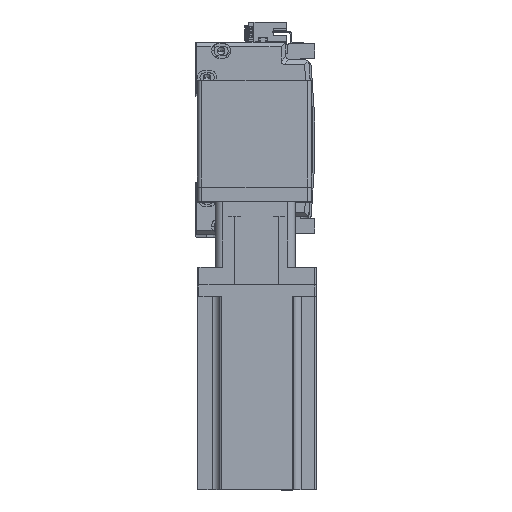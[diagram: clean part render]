
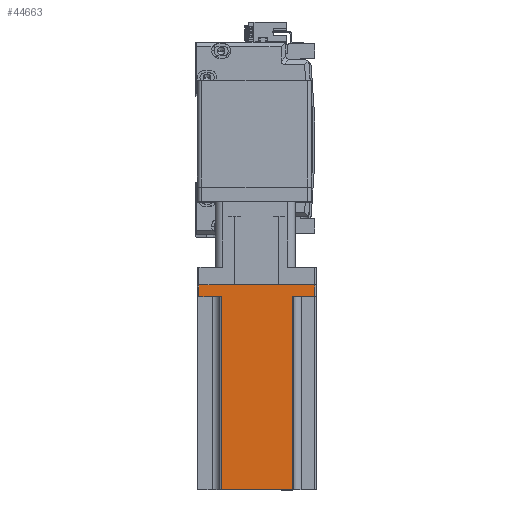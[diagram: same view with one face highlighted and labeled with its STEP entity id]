
A CAD part, top view. The second image highlights one B-rep face of the part: STEP entity #44663.
In plain terms, the highlighted planar face has unit normal (0, 0, 1) as drawn and (0, 1, 0) by its records, which use the part's own axes.
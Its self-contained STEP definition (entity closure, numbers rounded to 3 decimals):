
#2031 = EDGE_LOOP ( 'NONE', ( #16485, #6831, #46686, #34866, #21909, #4313, #35235, #10356 ) ) ;
#2285 = EDGE_CURVE ( 'NONE', #29230, #35787, #46152, .T. ) ;
#2308 = LINE ( 'NONE', #15813, #22176 ) ;
#2727 = CARTESIAN_POINT ( 'NONE',  ( 39., 40., 8. ) ) ;
#3024 = CARTESIAN_POINT ( 'NONE',  ( 24., 40., 138.3 ) ) ;
#3630 = EDGE_CURVE ( 'NONE', #30728, #42348, #47096, .T. ) ;
#3979 = CARTESIAN_POINT ( 'NONE',  ( -39., 40., 8. ) ) ;
#4151 = CARTESIAN_POINT ( 'NONE',  ( -39., 40., 0. ) ) ;
#4313 = ORIENTED_EDGE ( 'NONE', *, *, #3630, .T. ) ;
#4453 = VECTOR ( 'NONE', #12145, 1000. ) ;
#4673 = VECTOR ( 'NONE', #25967, 1000. ) ;
#6281 = CARTESIAN_POINT ( 'NONE',  ( 40., 40., 138.3 ) ) ;
#6831 = ORIENTED_EDGE ( 'NONE', *, *, #30359, .T. ) ;
#7558 = DIRECTION ( 'NONE',  ( 0., 0., -1. ) ) ;
#7945 = DIRECTION ( 'NONE',  ( 0., 0., -1. ) ) ;
#8362 = VECTOR ( 'NONE', #7945, 1000. ) ;
#9353 = CARTESIAN_POINT ( 'NONE',  ( 40., 40., 138.3 ) ) ;
#9811 = LINE ( 'NONE', #11280, #10939 ) ;
#10061 = DIRECTION ( 'NONE',  ( 1., 0., 0. ) ) ;
#10277 = CARTESIAN_POINT ( 'NONE',  ( -24., 40., 138.3 ) ) ;
#10356 = ORIENTED_EDGE ( 'NONE', *, *, #22104, .T. ) ;
#10939 = VECTOR ( 'NONE', #7558, 1000. ) ;
#11280 = CARTESIAN_POINT ( 'NONE',  ( 24., 40., 138.3 ) ) ;
#12145 = DIRECTION ( 'NONE',  ( -1., 0., 0. ) ) ;
#13849 = VERTEX_POINT ( 'NONE', #4151 ) ;
#14083 = LINE ( 'NONE', #33025, #42885 ) ;
#15813 = CARTESIAN_POINT ( 'NONE',  ( -24., 40., 138.3 ) ) ;
#16485 = ORIENTED_EDGE ( 'NONE', *, *, #46427, .T. ) ;
#18431 = CARTESIAN_POINT ( 'NONE',  ( 25., 40., 8. ) ) ;
#18871 = CARTESIAN_POINT ( 'NONE',  ( -24., 40., 8. ) ) ;
#19332 = CARTESIAN_POINT ( 'NONE',  ( 24., 40., 8. ) ) ;
#21162 = VECTOR ( 'NONE', #34531, 1000. ) ;
#21909 = ORIENTED_EDGE ( 'NONE', *, *, #37251, .F. ) ;
#22011 = LINE ( 'NONE', #42133, #4453 ) ;
#22104 = EDGE_CURVE ( 'NONE', #13849, #25700, #14083, .T. ) ;
#22176 = VECTOR ( 'NONE', #45529, 1000. ) ;
#22925 = VERTEX_POINT ( 'NONE', #19332 ) ;
#24523 = EDGE_CURVE ( 'NONE', #29230, #22925, #9811, .T. ) ;
#25467 = DIRECTION ( 'NONE',  ( 0., 0., 1. ) ) ;
#25700 = VERTEX_POINT ( 'NONE', #3979 ) ;
#25967 = DIRECTION ( 'NONE',  ( -1., 0., 0. ) ) ;
#26683 = VERTEX_POINT ( 'NONE', #18871 ) ;
#26849 = EDGE_CURVE ( 'NONE', #42348, #13849, #22011, .T. ) ;
#29230 = VERTEX_POINT ( 'NONE', #3024 ) ;
#30307 = CARTESIAN_POINT ( 'NONE',  ( 39., 40., 0. ) ) ;
#30359 = EDGE_CURVE ( 'NONE', #26683, #35787, #2308, .T. ) ;
#30727 = CARTESIAN_POINT ( 'NONE',  ( -25., 40., 8. ) ) ;
#30728 = VERTEX_POINT ( 'NONE', #2727 ) ;
#31167 = LINE ( 'NONE', #30727, #21162 ) ;
#32512 = DIRECTION ( 'NONE',  ( 0., -1., 0. ) ) ;
#33025 = CARTESIAN_POINT ( 'NONE',  ( -39., 40., 138.3 ) ) ;
#33409 = LINE ( 'NONE', #18431, #4673 ) ;
#34161 = CARTESIAN_POINT ( 'NONE',  ( 39., 40., 138.3 ) ) ;
#34531 = DIRECTION ( 'NONE',  ( 1., 0., 0. ) ) ;
#34866 = ORIENTED_EDGE ( 'NONE', *, *, #24523, .T. ) ;
#35235 = ORIENTED_EDGE ( 'NONE', *, *, #26849, .T. ) ;
#35590 = DIRECTION ( 'NONE',  ( -1., 0., 0. ) ) ;
#35787 = VERTEX_POINT ( 'NONE', #10277 ) ;
#37251 = EDGE_CURVE ( 'NONE', #30728, #22925, #33409, .T. ) ;
#38352 = AXIS2_PLACEMENT_3D ( 'NONE', #6281, #32512, #10061 ) ;
#38550 = VECTOR ( 'NONE', #35590, 1000. ) ;
#39903 = PLANE ( 'NONE',  #38352 ) ;
#42133 = CARTESIAN_POINT ( 'NONE',  ( 40., 40., 0. ) ) ;
#42348 = VERTEX_POINT ( 'NONE', #30307 ) ;
#42885 = VECTOR ( 'NONE', #25467, 1000. ) ;
#44663 = ADVANCED_FACE ( 'NONE', ( #44961 ), #39903, .F. ) ;
#44961 = FACE_OUTER_BOUND ( 'NONE', #2031, .T. ) ;
#45529 = DIRECTION ( 'NONE',  ( 0., 0., 1. ) ) ;
#46152 = LINE ( 'NONE', #9353, #38550 ) ;
#46427 = EDGE_CURVE ( 'NONE', #25700, #26683, #31167, .T. ) ;
#46686 = ORIENTED_EDGE ( 'NONE', *, *, #2285, .F. ) ;
#47096 = LINE ( 'NONE', #34161, #8362 ) ;
